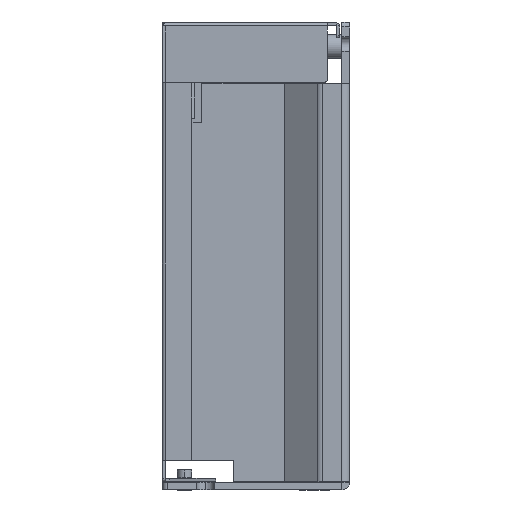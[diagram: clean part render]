
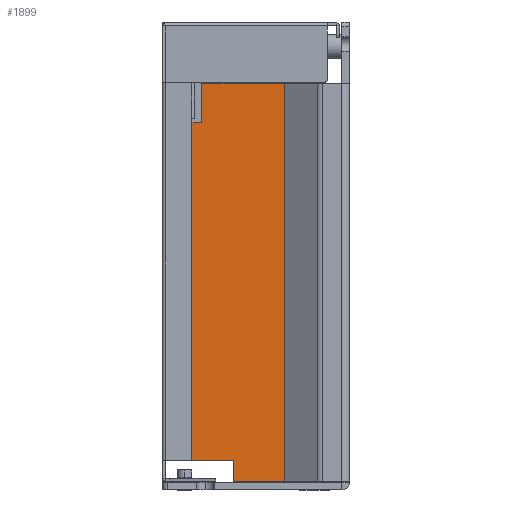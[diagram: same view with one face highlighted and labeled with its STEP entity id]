
A CAD part, left-side view. The second image highlights one B-rep face of the part: STEP entity #1899.
In plain terms, the highlighted planar face has unit normal (-1, 0, 0).
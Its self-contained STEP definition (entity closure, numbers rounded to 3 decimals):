
#1899 = ADVANCED_FACE ( 'NONE', ( #25117 ), #25548, .T. ) ;
#3172 = VERTEX_POINT ( 'NONE', #26856 ) ;
#3173 = VERTEX_POINT ( 'NONE', #26857 ) ;
#3174 = VERTEX_POINT ( 'NONE', #26858 ) ;
#3175 = VERTEX_POINT ( 'NONE', #26859 ) ;
#3176 = VERTEX_POINT ( 'NONE', #26860 ) ;
#3177 = VERTEX_POINT ( 'NONE', #26861 ) ;
#3178 = VERTEX_POINT ( 'NONE', #26862 ) ;
#3179 = VERTEX_POINT ( 'NONE', #26863 ) ;
#3180 = VERTEX_POINT ( 'NONE', #26864 ) ;
#3181 = VERTEX_POINT ( 'NONE', #26865 ) ;
#3182 = VERTEX_POINT ( 'NONE', #26866 ) ;
#3183 = VERTEX_POINT ( 'NONE', #26867 ) ;
#5853 = EDGE_LOOP ( 'NONE', ( #7185, #7187, #7186, #7188, #7189, #7190, #7191, #7192, #7193, #7194, #7195, #7196 ) ) ;
#7185 = ORIENTED_EDGE ( 'NONE', *, *, #7839, .F. ) ;
#7186 = ORIENTED_EDGE ( 'NONE', *, *, #7840, .F. ) ;
#7187 = ORIENTED_EDGE ( 'NONE', *, *, #7838, .F. ) ;
#7188 = ORIENTED_EDGE ( 'NONE', *, *, #7841, .F. ) ;
#7189 = ORIENTED_EDGE ( 'NONE', *, *, #7842, .F. ) ;
#7190 = ORIENTED_EDGE ( 'NONE', *, *, #7843, .F. ) ;
#7191 = ORIENTED_EDGE ( 'NONE', *, *, #7844, .F. ) ;
#7192 = ORIENTED_EDGE ( 'NONE', *, *, #7845, .F. ) ;
#7193 = ORIENTED_EDGE ( 'NONE', *, *, #7846, .F. ) ;
#7194 = ORIENTED_EDGE ( 'NONE', *, *, #7847, .T. ) ;
#7195 = ORIENTED_EDGE ( 'NONE', *, *, #7848, .F. ) ;
#7196 = ORIENTED_EDGE ( 'NONE', *, *, #7849, .F. ) ;
#7838 = EDGE_CURVE ( 'NONE', #3174, #3172, #31570, .T. ) ;
#7839 = EDGE_CURVE ( 'NONE', #3172, #3173, #31573, .T. ) ;
#7840 = EDGE_CURVE ( 'NONE', #3175, #3174, #31576, .T. ) ;
#7841 = EDGE_CURVE ( 'NONE', #3176, #3175, #32129, .T. ) ;
#7842 = EDGE_CURVE ( 'NONE', #3177, #3176, #31582, .T. ) ;
#7843 = EDGE_CURVE ( 'NONE', #3178, #3177, #32130, .T. ) ;
#7844 = EDGE_CURVE ( 'NONE', #3179, #3178, #31588, .T. ) ;
#7845 = EDGE_CURVE ( 'NONE', #3180, #3179, #31591, .T. ) ;
#7846 = EDGE_CURVE ( 'NONE', #3181, #3180, #31594, .T. ) ;
#7847 = EDGE_CURVE ( 'NONE', #3181, #3182, #31597, .T. ) ;
#7848 = EDGE_CURVE ( 'NONE', #3183, #3182, #31600, .T. ) ;
#7849 = EDGE_CURVE ( 'NONE', #3173, #3183, #31603, .T. ) ;
#25117 = FACE_OUTER_BOUND ( 'NONE', #5853, .T. ) ;
#25123 = AXIS2_PLACEMENT_3D ( 'NONE', #25549, #25550, #25551 ) ;
#25548 = PLANE ( 'NONE',  #25123 ) ;
#25549 = CARTESIAN_POINT ( 'NONE',  ( -154.9, 34.41, -13.5 ) ) ;
#25550 = DIRECTION ( 'NONE',  ( -1., 0., 0. ) ) ;
#25551 = DIRECTION ( 'NONE',  ( 0., -1., 0. ) ) ;
#26856 = CARTESIAN_POINT ( 'NONE',  ( -154.9, 32., -20.5 ) ) ;
#26857 = CARTESIAN_POINT ( 'NONE',  ( -154.9, 30., -20.5 ) ) ;
#26858 = CARTESIAN_POINT ( 'NONE',  ( -154.9, 32., -12.5 ) ) ;
#26859 = CARTESIAN_POINT ( 'NONE',  ( -154.9, 36., -12.5 ) ) ;
#26860 = CARTESIAN_POINT ( 'NONE',  ( -154.9, 37., -13.5 ) ) ;
#26861 = CARTESIAN_POINT ( 'NONE',  ( -154.9, 37., -88. ) ) ;
#26862 = CARTESIAN_POINT ( 'NONE',  ( -154.9, 36., -89. ) ) ;
#26863 = CARTESIAN_POINT ( 'NONE',  ( -154.9, 23.6, -89. ) ) ;
#26864 = CARTESIAN_POINT ( 'NONE',  ( -154.9, 23.6, -93.3 ) ) ;
#26865 = CARTESIAN_POINT ( 'NONE',  ( -154.9, 13.203, -93.3 ) ) ;
#26866 = CARTESIAN_POINT ( 'NONE',  ( -154.9, 13.203, -12.5 ) ) ;
#26867 = CARTESIAN_POINT ( 'NONE',  ( -154.9, 30., -12.5 ) ) ;
#30927 = VECTOR ( 'NONE', #31572, 1000. ) ;
#30929 = VECTOR ( 'NONE', #31575, 1000. ) ;
#30930 = AXIS2_PLACEMENT_3D ( 'NONE', #31545, #31579, #31580 ) ;
#30931 = VECTOR ( 'NONE', #31578, 1000. ) ;
#30933 = AXIS2_PLACEMENT_3D ( 'NONE', #31581, #31585, #31586 ) ;
#30934 = VECTOR ( 'NONE', #31584, 1000. ) ;
#30935 = VECTOR ( 'NONE', #31590, 1000. ) ;
#30936 = VECTOR ( 'NONE', #31593, 1000. ) ;
#30937 = VECTOR ( 'NONE', #31596, 1000. ) ;
#30938 = VECTOR ( 'NONE', #31599, 1000. ) ;
#30939 = VECTOR ( 'NONE', #31602, 1000. ) ;
#30940 = VECTOR ( 'NONE', #31605, 1000. ) ;
#31545 = CARTESIAN_POINT ( 'NONE',  ( -154.9, 36., -13.5 ) ) ;
#31570 = LINE ( 'NONE', #31571, #30927 ) ;
#31571 = CARTESIAN_POINT ( 'NONE',  ( -154.9, 32., -12.5 ) ) ;
#31572 = DIRECTION ( 'NONE',  ( 0., 0., -1. ) ) ;
#31573 = LINE ( 'NONE', #31574, #30929 ) ;
#31574 = CARTESIAN_POINT ( 'NONE',  ( -154.9, 32., -20.5 ) ) ;
#31575 = DIRECTION ( 'NONE',  ( 0., -1., 0. ) ) ;
#31576 = LINE ( 'NONE', #31577, #30931 ) ;
#31577 = CARTESIAN_POINT ( 'NONE',  ( -154.9, 0.01, -12.5 ) ) ;
#31578 = DIRECTION ( 'NONE',  ( 0., -1., 0. ) ) ;
#31579 = DIRECTION ( 'NONE',  ( 1., 0., 0. ) ) ;
#31580 = DIRECTION ( 'NONE',  ( 0., -1., 0. ) ) ;
#31581 = CARTESIAN_POINT ( 'NONE',  ( -154.9, 36., -88. ) ) ;
#31582 = LINE ( 'NONE', #31583, #30934 ) ;
#31583 = CARTESIAN_POINT ( 'NONE',  ( -154.9, 37., -13.5 ) ) ;
#31584 = DIRECTION ( 'NONE',  ( 0., 0., 1. ) ) ;
#31585 = DIRECTION ( 'NONE',  ( 1., 0., 0. ) ) ;
#31586 = DIRECTION ( 'NONE',  ( 0., 1., 0. ) ) ;
#31588 = LINE ( 'NONE', #31589, #30935 ) ;
#31589 = CARTESIAN_POINT ( 'NONE',  ( -154.9, 36., -89. ) ) ;
#31590 = DIRECTION ( 'NONE',  ( 0., 1., 0. ) ) ;
#31591 = LINE ( 'NONE', #31592, #30936 ) ;
#31592 = CARTESIAN_POINT ( 'NONE',  ( -154.9, 23.6, -89. ) ) ;
#31593 = DIRECTION ( 'NONE',  ( 0., 0., 1. ) ) ;
#31594 = LINE ( 'NONE', #31595, #30937 ) ;
#31595 = CARTESIAN_POINT ( 'NONE',  ( -154.9, 35.41, -93.3 ) ) ;
#31596 = DIRECTION ( 'NONE',  ( 0., 1., 0. ) ) ;
#31597 = LINE ( 'NONE', #31598, #30938 ) ;
#31598 = CARTESIAN_POINT ( 'NONE',  ( -154.9, 13.203, -13.5 ) ) ;
#31599 = DIRECTION ( 'NONE',  ( 0., 0., 1. ) ) ;
#31600 = LINE ( 'NONE', #31601, #30939 ) ;
#31601 = CARTESIAN_POINT ( 'NONE',  ( -154.9, 0.01, -12.5 ) ) ;
#31602 = DIRECTION ( 'NONE',  ( 0., -1., 0. ) ) ;
#31603 = LINE ( 'NONE', #31604, #30940 ) ;
#31604 = CARTESIAN_POINT ( 'NONE',  ( -154.9, 30., -20.5 ) ) ;
#31605 = DIRECTION ( 'NONE',  ( 0., 0., 1. ) ) ;
#32129 = CIRCLE ( 'NONE', #30930, 1. ) ;
#32130 = CIRCLE ( 'NONE', #30933, 1. ) ;
